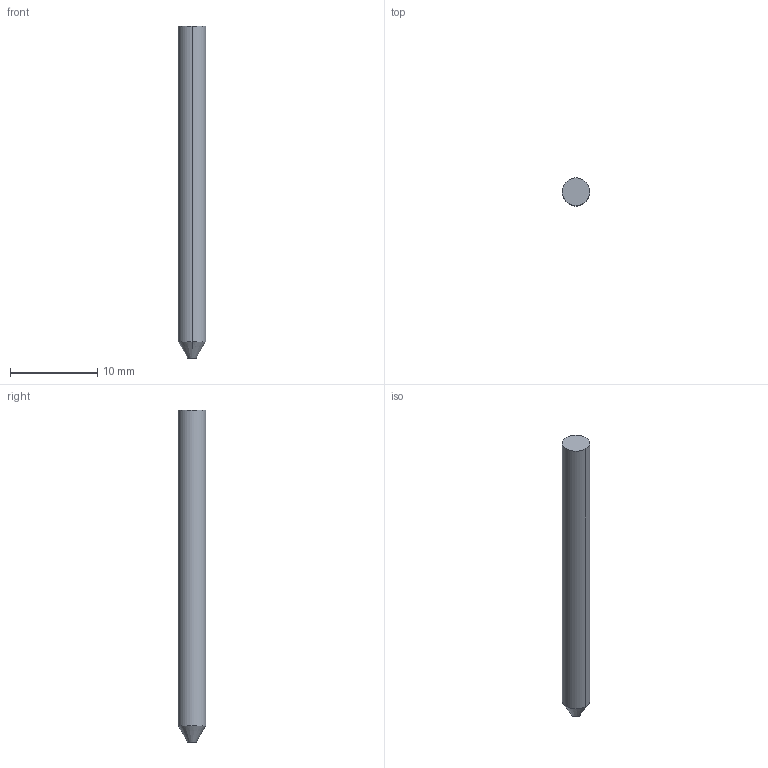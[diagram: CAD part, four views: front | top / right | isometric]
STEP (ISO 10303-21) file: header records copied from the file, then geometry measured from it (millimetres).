
FILE_DESCRIPTION((' '),'2;1');
FILE_NAME( '3HC012501B.stp', '2026-01-21T09:07:49', (' '), ('--- Datakit www.datakit.com---'), ' Datakit CrossCadWare V2025.4 Sep 19 2025', 'Mastercam 2027', ' ');
FILE_SCHEMA(('AUTOMOTIVE_DESIGN { 1 0 10303 214 1 1 1 1 }'));
Length unit declared in the file: inch
Products named in the file (1): 3HC012501B
Bounding box: 3.17 x 3.17 x 38.1 mm (x, y, z)
Volume: 293.9 mm3; surface area: 384.3 mm2
Topology: 1 solids, 1 shells, 8 faces, 14 edges, 8 vertices
Faces by surface type: cylinder 4, plane 2, cone 2
Entity records: 264 total; most frequent: DIRECTION 48, CARTESIAN_POINT 35, ORIENTED_EDGE 28, AXIS2_PLACEMENT_3D 21, EDGE_CURVE 14, VERTEX_POINT 8, CIRCLE 8, EDGE_LOOP 8
